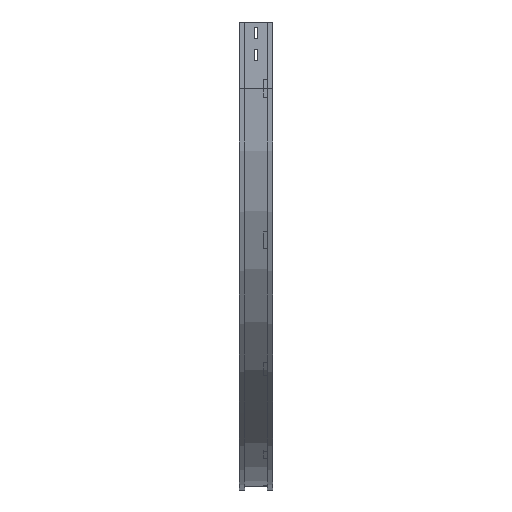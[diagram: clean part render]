
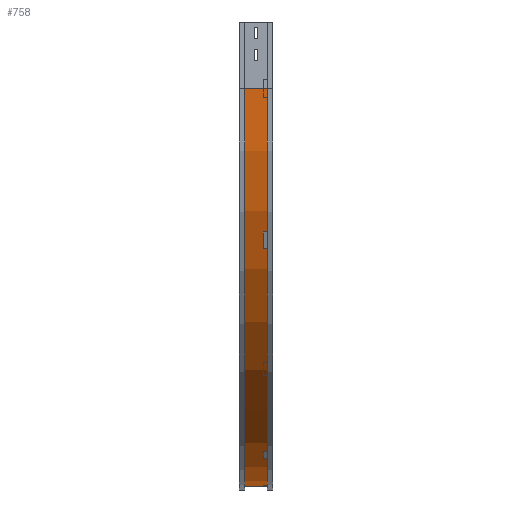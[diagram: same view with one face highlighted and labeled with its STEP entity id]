
A CAD part, left-side view. The second image highlights one B-rep face of the part: STEP entity #758.
In plain terms, the highlighted cylindrical face has radius 900 mm (diameter 1800 mm), a partial arc.
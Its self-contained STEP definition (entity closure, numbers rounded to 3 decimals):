
#210 = CARTESIAN_POINT ( 'NONE',  ( 909., 12., -1050. ) ) ;
#262 = AXIS2_PLACEMENT_3D ( 'NONE', #2869, #1596, #2612 ) ;
#279 = FACE_OUTER_BOUND ( 'NONE', #1758, .T. ) ;
#500 = ORIENTED_EDGE ( 'NONE', *, *, #2607, .F. ) ;
#613 = DIRECTION ( 'NONE',  ( 0., -1., 0. ) ) ;
#758 = ADVANCED_FACE ( 'NONE', ( #279 ), #2069, .T. ) ;
#787 = DIRECTION ( 'NONE',  ( 0., 0., -1. ) ) ;
#809 = CARTESIAN_POINT ( 'NONE',  ( 909., 0., -150. ) ) ;
#947 = CARTESIAN_POINT ( 'NONE',  ( 9., 12., -150. ) ) ;
#956 = VERTEX_POINT ( 'NONE', #1638 ) ;
#977 = VECTOR ( 'NONE', #3160, 1000. ) ;
#987 = ORIENTED_EDGE ( 'NONE', *, *, #2923, .F. ) ;
#1152 = CIRCLE ( 'NONE', #262, 900. ) ;
#1266 = DIRECTION ( 'NONE',  ( 0., -1., 0. ) ) ;
#1320 = CARTESIAN_POINT ( 'NONE',  ( 9., 63., -150. ) ) ;
#1414 = ORIENTED_EDGE ( 'NONE', *, *, #3002, .T. ) ;
#1444 = VERTEX_POINT ( 'NONE', #947 ) ;
#1550 = VERTEX_POINT ( 'NONE', #1320 ) ;
#1596 = DIRECTION ( 'NONE',  ( 0., -1., 0. ) ) ;
#1638 = CARTESIAN_POINT ( 'NONE',  ( 909., 12., -1050. ) ) ;
#1758 = EDGE_LOOP ( 'NONE', ( #500, #987, #1414, #1862 ) ) ;
#1862 = ORIENTED_EDGE ( 'NONE', *, *, #1870, .T. ) ;
#1870 = EDGE_CURVE ( 'NONE', #3368, #956, #2581, .T. ) ;
#2069 = CYLINDRICAL_SURFACE ( 'NONE', #2408, 900. ) ;
#2179 = DIRECTION ( 'NONE',  ( -1., 0., 0. ) ) ;
#2370 = CARTESIAN_POINT ( 'NONE',  ( 9., 12., -150. ) ) ;
#2385 = CARTESIAN_POINT ( 'NONE',  ( 909., 63., -1050. ) ) ;
#2408 = AXIS2_PLACEMENT_3D ( 'NONE', #809, #2858, #787 ) ;
#2437 = CARTESIAN_POINT ( 'NONE',  ( 909., 12., -150. ) ) ;
#2581 = LINE ( 'NONE', #210, #2706 ) ;
#2607 = EDGE_CURVE ( 'NONE', #1444, #956, #2974, .T. ) ;
#2612 = DIRECTION ( 'NONE',  ( -1., 0., 0. ) ) ;
#2706 = VECTOR ( 'NONE', #1266, 1000. ) ;
#2858 = DIRECTION ( 'NONE',  ( 0., -1., 0. ) ) ;
#2869 = CARTESIAN_POINT ( 'NONE',  ( 909., 63., -150. ) ) ;
#2923 = EDGE_CURVE ( 'NONE', #1550, #1444, #3197, .T. ) ;
#2974 = CIRCLE ( 'NONE', #3306, 900. ) ;
#3002 = EDGE_CURVE ( 'NONE', #1550, #3368, #1152, .T. ) ;
#3160 = DIRECTION ( 'NONE',  ( 0., -1., 0. ) ) ;
#3197 = LINE ( 'NONE', #2370, #977 ) ;
#3306 = AXIS2_PLACEMENT_3D ( 'NONE', #2437, #613, #2179 ) ;
#3368 = VERTEX_POINT ( 'NONE', #2385 ) ;
